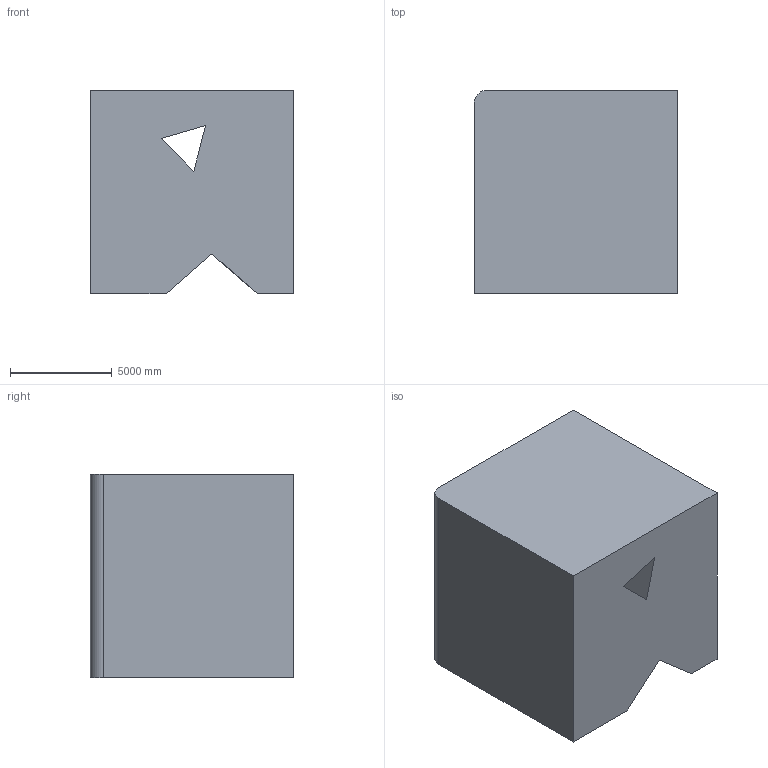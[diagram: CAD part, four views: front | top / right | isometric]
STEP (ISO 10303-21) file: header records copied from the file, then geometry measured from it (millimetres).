
FILE_DESCRIPTION (( 'STEP AP203' ), '1' );
FILE_NAME ('146.STEP', '2022-09-06T15:12:58', ( 'user' ), ( '' ), 'SwSTEP 2.0', 'SolidWorks 2021', '' );
FILE_SCHEMA (( 'CONFIG_CONTROL_DESIGN' ));
Length unit declared in the file: centimetre
Products named in the file (1): 146
Bounding box: 10000 x 10000 x 10000 mm (x, y, z)
Volume: 929146772940.4 mm3; surface area: 669069950.6 mm2
Topology: 1 solids, 1 shells, 21 faces, 57 edges, 38 vertices
Faces by surface type: plane 20, cylinder 1
Entity records: 734 total; most frequent: CARTESIAN_POINT 117, ORIENTED_EDGE 114, DIRECTION 103, EDGE_CURVE 57, VECTOR 55, LINE 55, VERTEX_POINT 38, AXIS2_PLACEMENT_3D 24
